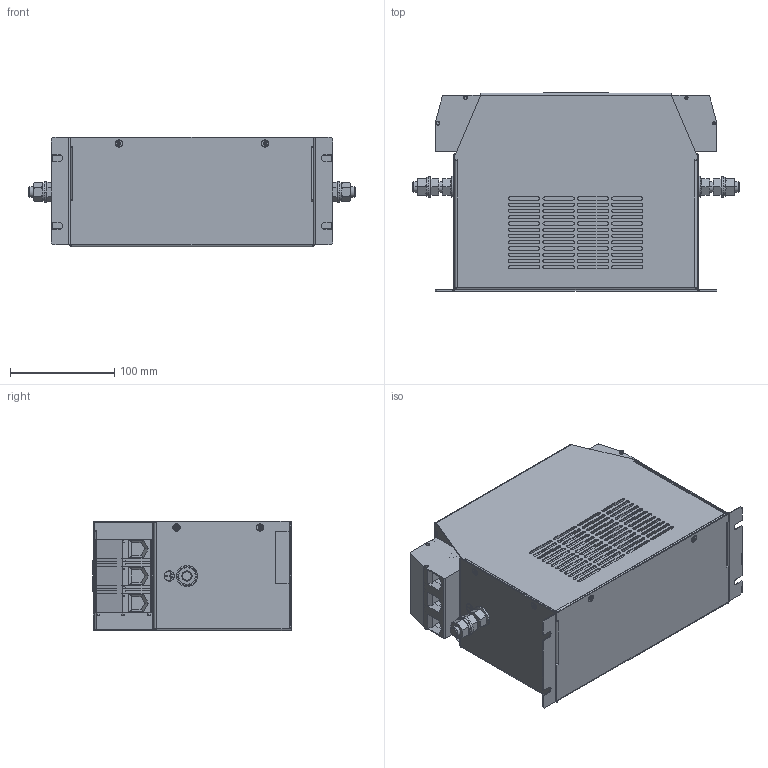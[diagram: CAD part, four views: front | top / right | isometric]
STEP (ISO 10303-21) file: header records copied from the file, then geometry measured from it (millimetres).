
FILE_DESCRIPTION((''),'2;1');
FILE_NAME('PRT0002','2021-03-08T',('ED0010'),(''),'CREO PARAMETRIC BY PTC INC, 2018220','CREO PARAMETRIC BY PTC INC, 2018220','');
FILE_SCHEMA(('AUTOMOTIVE_DESIGN { 1 0 10303 214 1 1 1 1 }'));
Products named in the file (1): PRT0002
Bounding box: 313 x 190.3 x 105 mm (x, y, z)
Volume: 449660.6 mm3; surface area: 424832.8 mm2
Topology: 1 solids, 97 shells, 2190 faces, 5383 edges, 3470 vertices
Faces by surface type: plane 1144, cylinder 680, torus 204, cone 156, bspline 6
Entity records: 81293 total; most frequent: CARTESIAN_POINT 12060, DIRECTION 11719, ORIENTED_EDGE 10766, EDGE_CURVE 5383, AXIS2_PLACEMENT_3D 4336, VERTEX_POINT 3470, VECTOR 3047, LINE 3047
